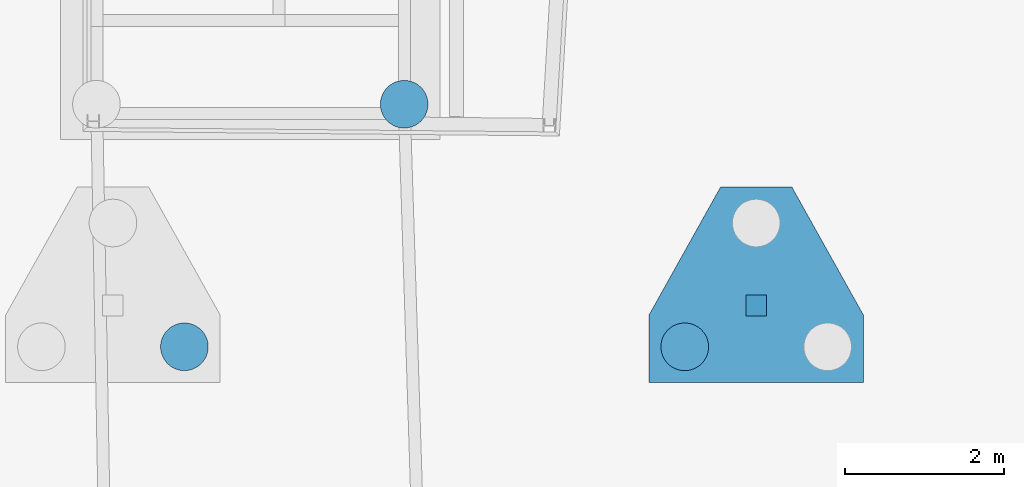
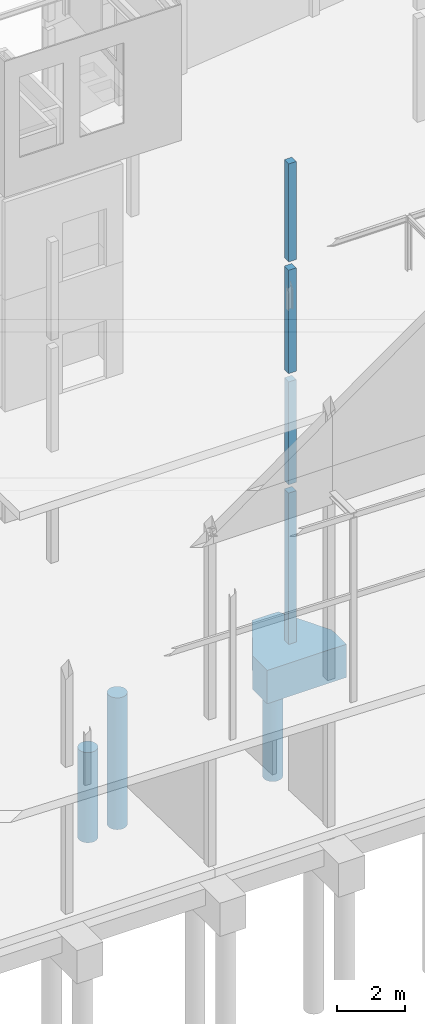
# One storey, part 38 of 82: 8 columns.
"""IFC2X3 building model written with IfcOpenShell, lengths in millimetres."""

from ifc_helpers import new_model, si_unit, frame, frame_2d, origin_with_axes, place, context, subcontext, project, spatial, polyline, rectangle, circle, outline, extrude, material, type_object, element, save


model = new_model("IFC2X3")

# Units and contexts
model_context = context("Model", 3, precision=1e-05, world=origin_with_axes())
body_context = subcontext(model_context, "Body", "Model", "MODEL_VIEW")
ifc_project = project(units=[si_unit("LENGTHUNIT", "METRE", prefix="MILLI"), si_unit("AREAUNIT", "SQUARE_METRE"), si_unit("VOLUMEUNIT", "CUBIC_METRE"), si_unit("MASSUNIT", "GRAM", prefix="KILO"), si_unit("TIMEUNIT", "SECOND"), si_unit("PLANEANGLEUNIT", "RADIAN"), si_unit("SOLIDANGLEUNIT", "STERADIAN"), si_unit("THERMODYNAMICTEMPERATUREUNIT", "DEGREE_CELSIUS"), si_unit("LUMINOUSINTENSITYUNIT", "LUMEN")], contexts=[model_context])

# Site, building, storey
site_placement = place(None, origin_with_axes())
site = spatial("IfcSite", under=ifc_project, at=site_placement, Name="Undefined", CompositionType="ELEMENT")
building_placement = place(site_placement, origin_with_axes())
building = spatial("IfcBuilding", under=site, at=building_placement, Name="Undefined", CompositionType="ELEMENT")
storey_placement = place(building_placement, origin_with_axes())
storey = spatial("IfcBuildingStorey", under=building, at=storey_placement, Name="Undefined", CompositionType="ELEMENT", Elevation=0.0)

# Columns
ifc_material_1 = material(Name="CONCRETE/C25/30")
column_type_1 = type_object("IfcColumnType", Name="260*260", PredefinedType="NOTDEFINED")
column_1_placement = place(storey_placement, frame((37349.998474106, 9299.99968716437, 13330.0), z_axis=(0.0, 0.0, 1.0), x_axis=(1.0, 0.0, 0.0)))
element("IfcColumn", 1, at=column_1_placement, inside=storey, type_object=column_type_1, material=ifc_material_1, Name="POTEAU", ObjectType="260*260", context=body_context, shape_type="SweptSolid", body=[
    extrude(rectangle(XDim=260.0, YDim=260.0, at=frame_2d((5.17284206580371e-08, 4.49290382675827e-10), x_axis=(1.0, 0.0))), frame((0.0, 0.0, 3529.99999999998), z_axis=(0.0, -6.50000002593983e-08, -0.999999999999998), x_axis=(-1.0, 0.0, 0.0)), (0.0, 0.0, 1.0), 3530.0),
])
column_2_placement = place(storey_placement, frame((37349.998474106, 9299.99968716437, 9305.0), z_axis=(0.0, 0.0, 1.0), x_axis=(1.0, 0.0, 0.0)))
element("IfcColumn", 2, at=column_2_placement, inside=storey, type_object=column_type_1, material=ifc_material_1, Name="POTEAU", ObjectType="260*260", context=body_context, shape_type="SweptSolid", body=[
    extrude(rectangle(XDim=260.0, YDim=260.0, at=frame_2d((5.17284206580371e-08, 4.49290382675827e-10), x_axis=(1.0, 0.0))), frame((0.0, 0.0, 3725.0), z_axis=(0.0, -6.50000002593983e-08, -0.999999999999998), x_axis=(-1.0, 0.0, 0.0)), (0.0, 0.0, 1.0), 3725.0),
])
column_3_placement = place(storey_placement, frame((37349.998474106, 9299.99968716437, 5300.0), z_axis=(0.0, 0.0, 1.0), x_axis=(1.0, 0.0, 0.0)))
element("IfcColumn", 3, at=column_3_placement, inside=storey, type_object=column_type_1, material=ifc_material_1, Name="POTEAU", ObjectType="260*260", context=body_context, shape_type="SweptSolid", body=[
    extrude(rectangle(XDim=260.0, YDim=260.0, at=frame_2d((5.17284206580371e-08, 4.49290382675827e-10), x_axis=(1.0, 0.0))), frame((0.0, 0.0, 3705.00000000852), z_axis=(0.0, -6.50000002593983e-08, -0.999999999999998), x_axis=(-1.0, 0.0, 0.0)), (0.0, 0.0, 1.0), 3705.0),
])
column_4_placement = place(storey_placement, frame((37349.998474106, 9299.99968716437, -449.999511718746), z_axis=(0.0, 0.0, 1.0), x_axis=(1.0, 0.0, 0.0)))
element("IfcColumn", 4, at=column_4_placement, inside=storey, type_object=column_type_1, material=ifc_material_1, Name="POTEAU", ObjectType="260*260", context=body_context, shape_type="SweptSolid", body=[
    extrude(rectangle(XDim=260.0, YDim=260.0, at=frame_2d((5.17284206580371e-08, 4.49290382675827e-10), x_axis=(1.0, 0.0))), frame((0.0, 0.0, 5449.9995117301), z_axis=(0.0, -6.50000002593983e-08, -0.999999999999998), x_axis=(-1.0, 0.0, 0.0)), (0.0, 0.0, 1.0), 5450.1),
])
ifc_material_2 = material(Name="CONCRETE/C30/37")
column_type_2 = type_object("IfcColumnType", Name="1200*2460", PredefinedType="NOTDEFINED")
column_5_placement = place(storey_placement, frame((36899.9997110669, 10790.4000001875, -1050.05146572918), z_axis=(0.0, 0.0, 1.0), x_axis=(-0.487942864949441, -0.872875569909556, 0.0)))
element("IfcColumn", 5, at=column_5_placement, inside=storey, type_object=column_type_2, material=ifc_material_2, Name="SEMELLE", ObjectType="1200*2460", context=body_context, shape_type="SweptSolid", body=[
    extrude(outline(polyline([(5.17284206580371e-08, 4.49290382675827e-10), (1844.47827153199, -8.99672158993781e-09), (2586.42260747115, 414.751434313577), (1268.97668460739, 2771.51538083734), (527.032531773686, 2356.76416013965), (-439.148559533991, 785.588012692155), (5.17284206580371e-08, 4.49290382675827e-10)])), frame((0.0, 0.0, -600.0), z_axis=(0.0, 0.0, 1.0), x_axis=(1.0, 0.0, 0.0)), (0.0, 0.0, 1.0), 1200.0),
])
column_type_3 = type_object("IfcColumnType", Name="D600", PredefinedType="NOTDEFINED")
for number, where, z_axis, x_axis in (
    (6, (30150.0015258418, 8780.39999994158, -4675.0), (0.0, 0.0, 1.0), (1.0, 0.0, 0.0)),
    (7, (36449.9999999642, 8780.39999993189, -4675.0), (0.0, 0.0, 1.0), (1.0, 0.0, 0.0)),
):
    element("IfcColumn", number, at=place(storey_placement, frame(where, z_axis=z_axis, x_axis=x_axis)), inside=storey, type_object=column_type_3, material=ifc_material_1, Name="PIEU", ObjectType="D600", context=body_context, shape_type="SweptSolid", body=[
        extrude(circle(Radius=300.0, at=frame_2d((5.17284206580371e-08, 4.49290382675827e-10), x_axis=(1.0, 0.0))), frame((0.0, 0.0, 3250.0), z_axis=(0.0, -6.50000002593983e-08, -0.999999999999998), x_axis=(-1.0, 0.0, 0.0)), (0.0, 0.0, 1.0), 3250.0),
    ])
column_6_placement = place(storey_placement, frame((32917.4616766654, 11834.7610032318, -7025.0), z_axis=(0.0, 0.0, 1.0), x_axis=(1.0, 0.0, 0.0)))
element("IfcColumn", 8, at=column_6_placement, inside=storey, type_object=column_type_3, material=ifc_material_1, Name="PIEU", ObjectType="D600", context=body_context, shape_type="SweptSolid", body=[
    extrude(circle(Radius=300.0, at=frame_2d((5.17284206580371e-08, 4.49290382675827e-10), x_axis=(1.0, 0.0))), frame((0.0, 0.0, 4750.0), z_axis=(0.0, -6.50000002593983e-08, -0.999999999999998), x_axis=(1.0, 0.0, 0.0)), (0.0, 0.0, 1.0), 4750.0),
])

save(model, "model.ifc")
